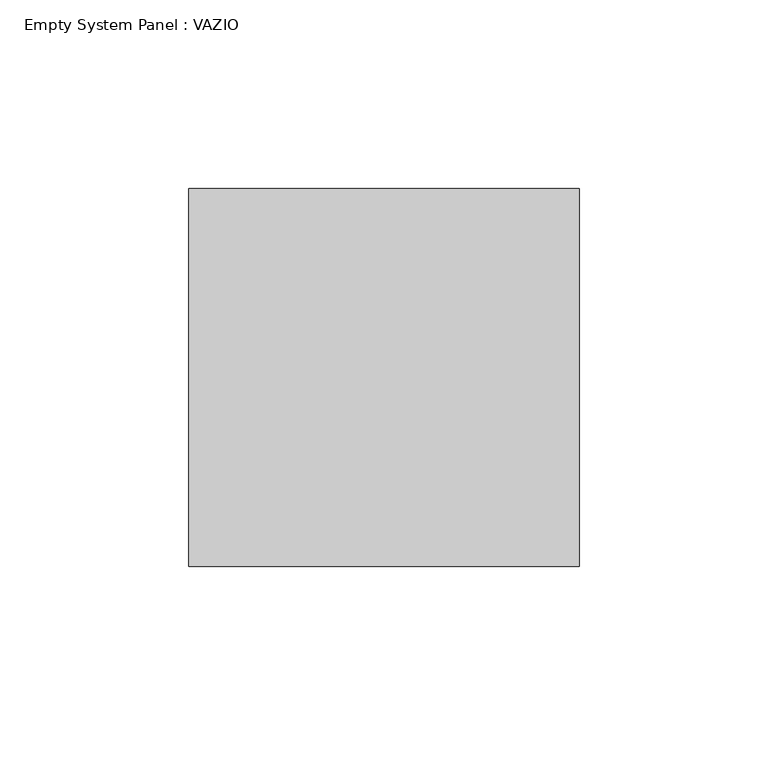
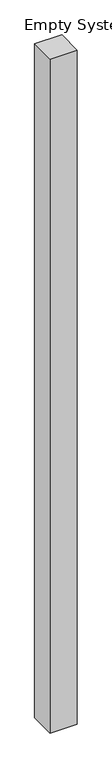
"""IFC4 building model written with IfcOpenShell, lengths in millimetres: plate geometry, Empty System Panel : VAZIO."""

from ifc_helpers import new_model, si_unit, origin, origin_with_axes, place, context, project, spatial, polyline, outline, extrude, source, transform, mapped, element, save


def empty_system_panel_vazio_fe81b130(model_context):
    return source(origin(), model_context, "Body", "SweptSolid", [
        extrude(outline(polyline([(51.6713059, -50.0), (-51.6713059, -50.0), (-51.6713059, 50.0), (51.6713059, 50.0), (51.6713059, -50.0)])), origin_with_axes(), (0.0, 0.0, 1.0), 2705.0),
    ])


if __name__ == "__main__":
    model = new_model("IFC4")
    model_context = context("Model", 3, world=origin())
    ifc_project = project(units=[si_unit("LENGTHUNIT", "METRE", prefix="MILLI")], contexts=[model_context])
    site = spatial("IfcSite", under=ifc_project)
    building = spatial("IfcBuilding", under=site)
    placement = place(None, origin())
    empty_system_panel_vazio_shape = empty_system_panel_vazio_fe81b130(model_context)
    element("IfcPlate", 1, ObjectType="Empty System Panel : VAZIO", at=placement, inside=building, context=model_context, shape_type="MappedRepresentation", body=[
        mapped(empty_system_panel_vazio_shape, transform((0.0, 0.0, 0.0), x_axis=(1.0, 0.0, 0.0), y_axis=(0.0, 1.0, 0.0), z_axis=(0.0, 0.0, 1.0))),
    ])
    save(model, "model.ifc")
